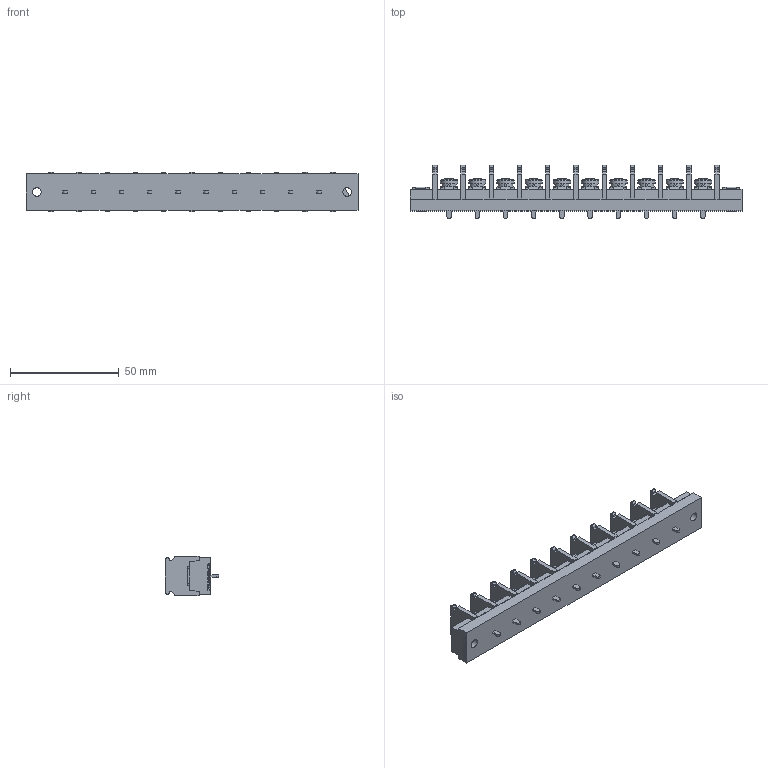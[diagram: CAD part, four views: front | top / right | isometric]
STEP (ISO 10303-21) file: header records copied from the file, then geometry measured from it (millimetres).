
FILE_DESCRIPTION(/* description */ ('Alibre Inc.'),/* implementation_level */ '2;1');
FILE_NAME(/* name */ 'export0',/* time_stamp */ '2016-08-02T19:29:33+09:00',/* author */ (''),/* organization */ (''),/* preprocessor_version */ 'ST-DEVELOPER v14',/* originating_system */ 'Alibre',/* authorisation */ '');
FILE_SCHEMA (('CONFIG_CONTROL_DESIGN'));
Length unit declared in the file: centimetre
Products named in the file (1): ID_1
Bounding box: 153 x 24.5 x 18 mm (x, y, z)
Volume: 30359.3 mm3; surface area: 15922.3 mm2
Topology: 1 solids, 43 shells, 1648 faces, 4356 edges, 2876 vertices
Faces by surface type: plane 1190, bspline 208, cylinder 180, cone 50, sphere 10, torus 10
Full cylindrical faces by diameter (mm): 4 x14, 6.5 x10, 7.7 x10, 8 x10
Entity records: 48649 total; most frequent: CARTESIAN_POINT 10797, ORIENTED_EDGE 8536, DIRECTION 5952, EDGE_CURVE 4268, VECTOR 3058, LINE 3058, VERTEX_POINT 2842, AXIS2_PLACEMENT_3D 2001
